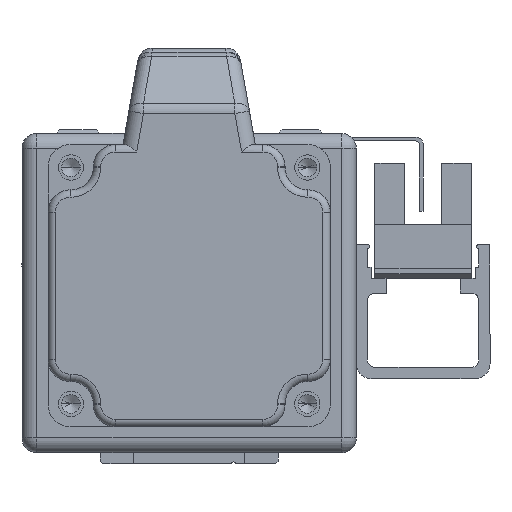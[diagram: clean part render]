
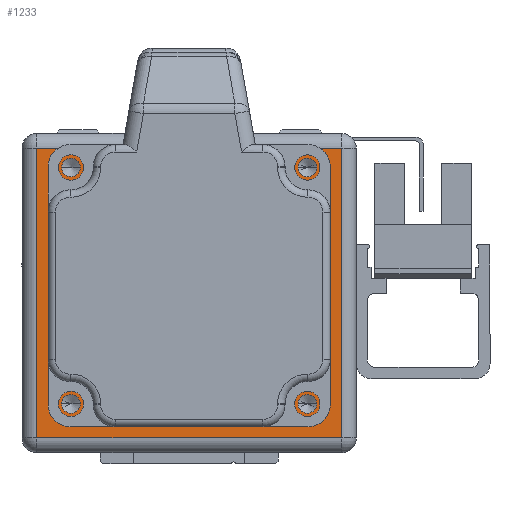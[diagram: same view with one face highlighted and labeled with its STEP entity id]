
A CAD part, left-side view. The second image highlights one B-rep face of the part: STEP entity #1233.
In plain terms, the highlighted planar face has unit normal (-1, 0, 0) as drawn and (0, 0, -1) by its records, which use the part's own axes.
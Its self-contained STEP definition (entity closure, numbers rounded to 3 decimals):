
#102 = LINE ( 'NONE', #5632, #383 ) ;
#383 = VECTOR ( 'NONE', #24929, 1000. ) ;
#457 = ORIENTED_EDGE ( 'NONE', *, *, #7250, .F. ) ;
#1057 = CIRCLE ( 'NONE', #23198, 1.25 ) ;
#1230 = CARTESIAN_POINT ( 'NONE',  ( -17.16, -14.91, 0. ) ) ;
#1233 = ADVANCED_FACE ( 'NONE', ( #23588, #23531, #23666, #23505, #23474, #23439 ), #7480, .F. ) ;
#1275 = EDGE_CURVE ( 'NONE', #11941, #26386, #23413, .T. ) ;
#1484 = DIRECTION ( 'NONE',  ( -1., 0., 0. ) ) ;
#1488 = CARTESIAN_POINT ( 'NONE',  ( 15.91, -14.91, 0. ) ) ;
#1493 = EDGE_CURVE ( 'NONE', #9168, #29263, #22311, .T. ) ;
#1657 = DIRECTION ( 'NONE',  ( -1., 0., 0. ) ) ;
#1974 = ORIENTED_EDGE ( 'NONE', *, *, #29313, .F. ) ;
#1982 = AXIS2_PLACEMENT_3D ( 'NONE', #30639, #16668, #1484 ) ;
#2757 = AXIS2_PLACEMENT_3D ( 'NONE', #8087, #7980, #7941 ) ;
#3067 = CARTESIAN_POINT ( 'NONE',  ( 20.5, -19.5, 0. ) ) ;
#3139 = CIRCLE ( 'NONE', #7275, 1.25 ) ;
#3168 = ORIENTED_EDGE ( 'NONE', *, *, #8617, .T. ) ;
#3666 = CARTESIAN_POINT ( 'NONE',  ( -15.5, 1., 0. ) ) ;
#4133 = DIRECTION ( 'NONE',  ( -1., 0., 0. ) ) ;
#4425 = ORIENTED_EDGE ( 'NONE', *, *, #28773, .F. ) ;
#4449 = ORIENTED_EDGE ( 'NONE', *, *, #1493, .T. ) ;
#4552 = VECTOR ( 'NONE', #11050, 1000. ) ;
#4582 = LINE ( 'NONE', #10477, #4552 ) ;
#5256 = LINE ( 'NONE', #18706, #5474 ) ;
#5474 = VECTOR ( 'NONE', #20663, 1000. ) ;
#5632 = CARTESIAN_POINT ( 'NONE',  ( 22.5, -19.5, 0. ) ) ;
#5816 = ORIENTED_EDGE ( 'NONE', *, *, #6097, .F. ) ;
#6097 = EDGE_CURVE ( 'NONE', #17350, #21879, #29543, .T. ) ;
#6184 = ORIENTED_EDGE ( 'NONE', *, *, #1275, .F. ) ;
#6382 = ORIENTED_EDGE ( 'NONE', *, *, #12279, .T. ) ;
#6417 = ORIENTED_EDGE ( 'NONE', *, *, #20969, .T. ) ;
#6511 = ORIENTED_EDGE ( 'NONE', *, *, #28899, .T. ) ;
#6945 = CARTESIAN_POINT ( 'NONE',  ( 22.5, -21.5, 0. ) ) ;
#7191 = ORIENTED_EDGE ( 'NONE', *, *, #19880, .F. ) ;
#7250 = EDGE_CURVE ( 'NONE', #16915, #13534, #25080, .T. ) ;
#7275 = AXIS2_PLACEMENT_3D ( 'NONE', #10905, #10876, #10838 ) ;
#7440 = VERTEX_POINT ( 'NONE', #3067 ) ;
#7480 = PLANE ( 'NONE',  #22829 ) ;
#7584 = DIRECTION ( 'NONE',  ( 0., 0., 1. ) ) ;
#7618 = DIRECTION ( 'NONE',  ( 0., 0., -1. ) ) ;
#7625 = DIRECTION ( 'NONE',  ( 1., 0., 0. ) ) ;
#7941 = DIRECTION ( 'NONE',  ( -1., 0., 0. ) ) ;
#7980 = DIRECTION ( 'NONE',  ( 0., 0., -1. ) ) ;
#8026 = VERTEX_POINT ( 'NONE', #25475 ) ;
#8087 = CARTESIAN_POINT ( 'NONE',  ( 15.91, -14.91, 0. ) ) ;
#8414 = CIRCLE ( 'NONE', #18774, 1.25 ) ;
#8440 = ORIENTED_EDGE ( 'NONE', *, *, #12482, .T. ) ;
#8617 = EDGE_CURVE ( 'NONE', #29263, #9168, #20271, .T. ) ;
#8676 = CARTESIAN_POINT ( 'NONE',  ( -15.91, 16.91, 0. ) ) ;
#8754 = DIRECTION ( 'NONE',  ( 0., 0., -1. ) ) ;
#8784 = DIRECTION ( 'NONE',  ( -1., 0., 0. ) ) ;
#8943 = ORIENTED_EDGE ( 'NONE', *, *, #26865, .F. ) ;
#8987 = CARTESIAN_POINT ( 'NONE',  ( -14.66, 16.91, 0. ) ) ;
#9168 = VERTEX_POINT ( 'NONE', #11936 ) ;
#9236 = CARTESIAN_POINT ( 'NONE',  ( -20.5, -19.5, 0. ) ) ;
#10477 = CARTESIAN_POINT ( 'NONE',  ( -20.5, -21.5, 0. ) ) ;
#10838 = DIRECTION ( 'NONE',  ( -1., 0., 0. ) ) ;
#10876 = DIRECTION ( 'NONE',  ( 0., 0., -1. ) ) ;
#10905 = CARTESIAN_POINT ( 'NONE',  ( 15.91, 16.91, 0. ) ) ;
#11039 = CARTESIAN_POINT ( 'NONE',  ( 14.66, -14.91, 0. ) ) ;
#11050 = DIRECTION ( 'NONE',  ( 0., 1., 0. ) ) ;
#11073 = AXIS2_PLACEMENT_3D ( 'NONE', #1488, #19049, #4133 ) ;
#11111 = AXIS2_PLACEMENT_3D ( 'NONE', #20673, #20610, #20551 ) ;
#11936 = CARTESIAN_POINT ( 'NONE',  ( 15.5, 1., 0. ) ) ;
#11941 = VERTEX_POINT ( 'NONE', #30786 ) ;
#12279 = EDGE_CURVE ( 'NONE', #16431, #12831, #5256, .T. ) ;
#12346 = CARTESIAN_POINT ( 'NONE',  ( -14.66, -14.91, 0. ) ) ;
#12482 = EDGE_CURVE ( 'NONE', #29903, #16431, #4582, .T. ) ;
#12831 = VERTEX_POINT ( 'NONE', #31324 ) ;
#13534 = VERTEX_POINT ( 'NONE', #22303 ) ;
#14058 = CIRCLE ( 'NONE', #1982, 1.25 ) ;
#16346 = AXIS2_PLACEMENT_3D ( 'NONE', #28876, #28811, #28770 ) ;
#16381 = VERTEX_POINT ( 'NONE', #20137 ) ;
#16431 = VERTEX_POINT ( 'NONE', #18940 ) ;
#16668 = DIRECTION ( 'NONE',  ( 0., 0., -1. ) ) ;
#16833 = DIRECTION ( 'NONE',  ( 0., 0., -1. ) ) ;
#16915 = VERTEX_POINT ( 'NONE', #11039 ) ;
#17350 = VERTEX_POINT ( 'NONE', #1230 ) ;
#17576 = EDGE_LOOP ( 'NONE', ( #5816, #4425 ) ) ;
#17951 = EDGE_LOOP ( 'NONE', ( #6382, #6417, #6511, #8440 ) ) ;
#18386 = DIRECTION ( 'NONE',  ( 1., 0., 0. ) ) ;
#18410 = DIRECTION ( 'NONE',  ( 0., 0., 1. ) ) ;
#18421 = CARTESIAN_POINT ( 'NONE',  ( 0., 1., 0. ) ) ;
#18521 = EDGE_LOOP ( 'NONE', ( #457, #1974 ) ) ;
#18706 = CARTESIAN_POINT ( 'NONE',  ( 22.5, 19.5, 0. ) ) ;
#18774 = AXIS2_PLACEMENT_3D ( 'NONE', #30805, #16833, #1657 ) ;
#18940 = CARTESIAN_POINT ( 'NONE',  ( -20.5, 19.5, 0. ) ) ;
#19049 = DIRECTION ( 'NONE',  ( 0., 0., -1. ) ) ;
#19690 = EDGE_LOOP ( 'NONE', ( #3168, #4449 ) ) ;
#19880 = EDGE_CURVE ( 'NONE', #8026, #16381, #3139, .T. ) ;
#20137 = CARTESIAN_POINT ( 'NONE',  ( 17.16, 16.91, 0. ) ) ;
#20169 = ORIENTED_EDGE ( 'NONE', *, *, #27683, .F. ) ;
#20271 = CIRCLE ( 'NONE', #29424, 15.5 ) ;
#20551 = DIRECTION ( 'NONE',  ( -1., 0., 0. ) ) ;
#20610 = DIRECTION ( 'NONE',  ( 0., 0., -1. ) ) ;
#20663 = DIRECTION ( 'NONE',  ( 1., 0., 0. ) ) ;
#20673 = CARTESIAN_POINT ( 'NONE',  ( -15.91, -14.91, 0. ) ) ;
#20969 = EDGE_CURVE ( 'NONE', #12831, #7440, #29186, .T. ) ;
#21879 = VERTEX_POINT ( 'NONE', #12346 ) ;
#22177 = CARTESIAN_POINT ( 'NONE',  ( -15.91, -14.91, 0. ) ) ;
#22303 = CARTESIAN_POINT ( 'NONE',  ( 17.16, -14.91, 0. ) ) ;
#22311 = CIRCLE ( 'NONE', #16346, 15.5 ) ;
#22828 = AXIS2_PLACEMENT_3D ( 'NONE', #8676, #8754, #8784 ) ;
#22829 = AXIS2_PLACEMENT_3D ( 'NONE', #6945, #7584, #7625 ) ;
#23198 = AXIS2_PLACEMENT_3D ( 'NONE', #22177, #7618, #24449 ) ;
#23413 = CIRCLE ( 'NONE', #22828, 1.25 ) ;
#23439 = FACE_OUTER_BOUND ( 'NONE', #17951, .T. ) ;
#23474 = FACE_BOUND ( 'NONE', #19690, .T. ) ;
#23505 = FACE_BOUND ( 'NONE', #18521, .T. ) ;
#23531 = FACE_BOUND ( 'NONE', #24413, .T. ) ;
#23588 = FACE_BOUND ( 'NONE', #27790, .T. ) ;
#23666 = FACE_BOUND ( 'NONE', #17576, .T. ) ;
#24413 = EDGE_LOOP ( 'NONE', ( #6184, #20169 ) ) ;
#24449 = DIRECTION ( 'NONE',  ( -1., 0., 0. ) ) ;
#24929 = DIRECTION ( 'NONE',  ( -1., 0., 0. ) ) ;
#25080 = CIRCLE ( 'NONE', #2757, 1.25 ) ;
#25475 = CARTESIAN_POINT ( 'NONE',  ( 14.66, 16.91, 0. ) ) ;
#26386 = VERTEX_POINT ( 'NONE', #8987 ) ;
#26865 = EDGE_CURVE ( 'NONE', #16381, #8026, #14058, .T. ) ;
#27390 = CIRCLE ( 'NONE', #11073, 1.25 ) ;
#27683 = EDGE_CURVE ( 'NONE', #26386, #11941, #8414, .T. ) ;
#27790 = EDGE_LOOP ( 'NONE', ( #7191, #8943 ) ) ;
#28233 = DIRECTION ( 'NONE',  ( 0., -1., 0. ) ) ;
#28770 = DIRECTION ( 'NONE',  ( 1., 0., 0. ) ) ;
#28773 = EDGE_CURVE ( 'NONE', #21879, #17350, #1057, .T. ) ;
#28811 = DIRECTION ( 'NONE',  ( 0., 0., 1. ) ) ;
#28876 = CARTESIAN_POINT ( 'NONE',  ( 0., 1., 0. ) ) ;
#28899 = EDGE_CURVE ( 'NONE', #7440, #29903, #102, .T. ) ;
#29161 = VECTOR ( 'NONE', #28233, 1000. ) ;
#29186 = LINE ( 'NONE', #29816, #29161 ) ;
#29263 = VERTEX_POINT ( 'NONE', #3666 ) ;
#29313 = EDGE_CURVE ( 'NONE', #13534, #16915, #27390, .T. ) ;
#29424 = AXIS2_PLACEMENT_3D ( 'NONE', #18421, #18410, #18386 ) ;
#29543 = CIRCLE ( 'NONE', #11111, 1.25 ) ;
#29816 = CARTESIAN_POINT ( 'NONE',  ( 20.5, -21.5, 0. ) ) ;
#29903 = VERTEX_POINT ( 'NONE', #9236 ) ;
#30639 = CARTESIAN_POINT ( 'NONE',  ( 15.91, 16.91, 0. ) ) ;
#30786 = CARTESIAN_POINT ( 'NONE',  ( -17.16, 16.91, 0. ) ) ;
#30805 = CARTESIAN_POINT ( 'NONE',  ( -15.91, 16.91, 0. ) ) ;
#31324 = CARTESIAN_POINT ( 'NONE',  ( 20.5, 19.5, 0. ) ) ;
